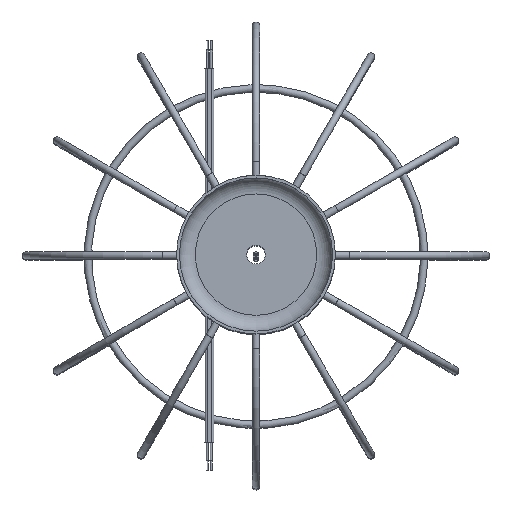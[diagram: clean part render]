
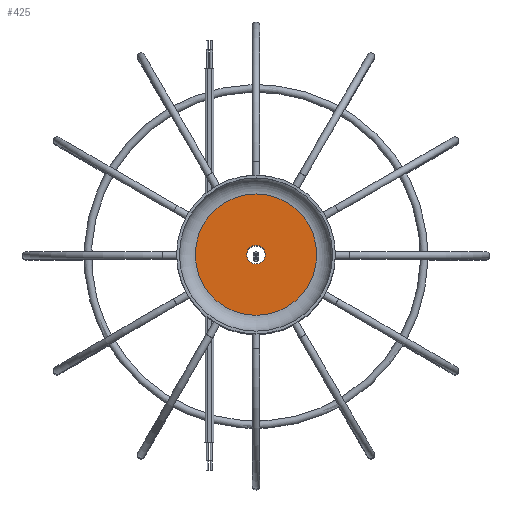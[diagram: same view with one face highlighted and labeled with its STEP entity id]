
A CAD part, top view. The second image highlights one B-rep face of the part: STEP entity #425.
In plain terms, the highlighted planar face has unit normal (0, 0, 1) as drawn and (0, 0, -1) by its records, which use the part's own axes.
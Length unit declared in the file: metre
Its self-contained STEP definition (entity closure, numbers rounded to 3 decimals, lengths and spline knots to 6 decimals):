
#425 = ADVANCED_FACE( '', ( #731, #732 ), #733, .T. );
#731 = FACE_OUTER_BOUND( '', #1042, .T. );
#732 = FACE_BOUND( '', #1043, .T. );
#733 = PLANE( '', #1044 );
#1042 = EDGE_LOOP( '', ( #1599 ) );
#1043 = EDGE_LOOP( '', ( #1600 ) );
#1044 = AXIS2_PLACEMENT_3D( '', #1601, #1602, #1603 );
#1599 = ORIENTED_EDGE( '', *, *, #1737, .T. );
#1600 = ORIENTED_EDGE( '', *, *, #1736, .F. );
#1601 = CARTESIAN_POINT( '', ( -0.0325, 0., 0.0225 ) );
#1602 = DIRECTION( '', ( 0., 0., -1. ) );
#1603 = DIRECTION( '', ( -1., 0., 0. ) );
#1736 = EDGE_CURVE( '', #1978, #1978, #1979, .T. );
#1737 = EDGE_CURVE( '', #1980, #1980, #1981, .T. );
#1978 = VERTEX_POINT( '', #3194 );
#1979 = CIRCLE( '', #3195, 0.005 );
#1980 = VERTEX_POINT( '', #3196 );
#1981 = CIRCLE( '', #3197, 0.0325 );
#3194 = CARTESIAN_POINT( '', ( -0.005, 0., 0.0225 ) );
#3195 = AXIS2_PLACEMENT_3D( '', #3464, #3465, #3466 );
#3196 = CARTESIAN_POINT( '', ( -0.0325, 0., 0.0225 ) );
#3197 = AXIS2_PLACEMENT_3D( '', #3467, #3468, #3469 );
#3464 = CARTESIAN_POINT( '', ( 0., 0., 0.0225 ) );
#3465 = DIRECTION( '', ( 0., 0., -1. ) );
#3466 = DIRECTION( '', ( -1., 0., 0. ) );
#3467 = CARTESIAN_POINT( '', ( 0., 0., 0.0225 ) );
#3468 = DIRECTION( '', ( 0., 0., -1. ) );
#3469 = DIRECTION( '', ( -1., 0., 0. ) );
